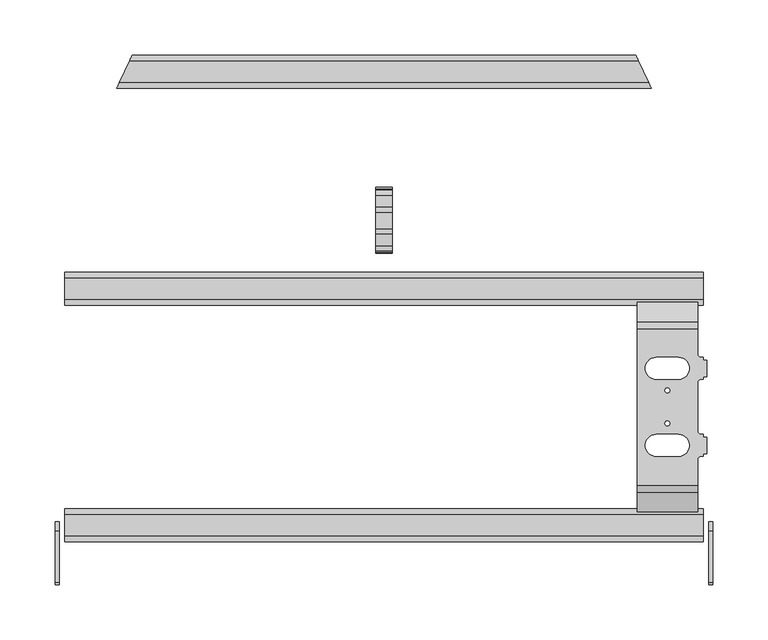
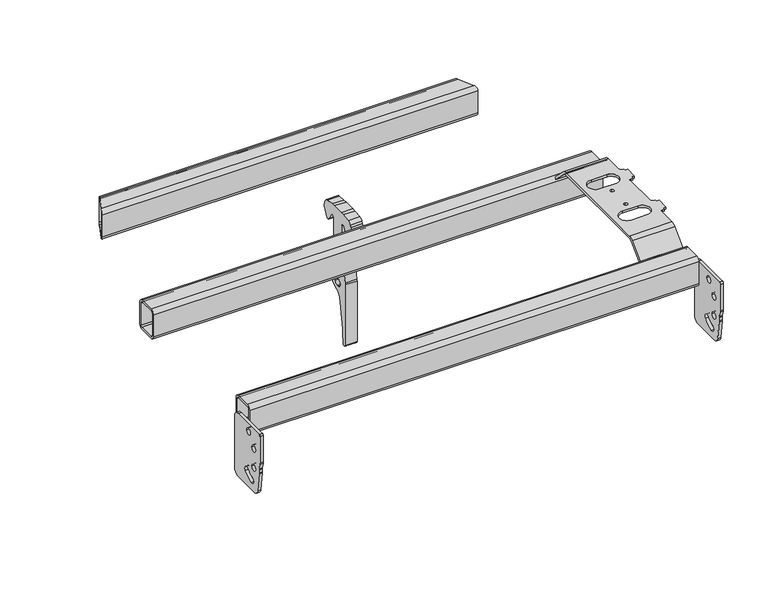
"""IFC4 building model written with IfcOpenShell, lengths in millimetres: proxy geometry, d&b CL-Series CCLi Flying Frame TOP : d&b CL-Series CCLi Flying Frame TOP."""

from ifc_helpers import new_model, si_unit, point, frame, frame_2d, origin, place, context, project, spatial, polyline, circle_curve, ellipse_curve, trimmed, segment, composite_curve, outline, extrude, source, transform, mapped, element, save
from ifc_brep_helpers import plane_surface, cylinder_surface, revolved_surface, advanced_brep


def communication_devices_adbe50ae(model_context):
    return source(origin(), model_context, "Body", "SolidModel", [
        advanced_brep(
        [(230.0, 65.4816844, 64.4743251), (230.0, 83.3713203, 82.363961), (230.0, 89.7352814, 85.0), (230.0, 231.7647186, 85.0), (230.0, 238.1286797, 82.363961), (230.0, 256.0183156, 64.4743251), (230.0, 253.858835, 62.391165), (230.0, 236.0073593, 80.2426407), (230.0, 231.7647186, 82.0), (230.0, 89.7352814, 82.0), (230.0, 85.4926407, 80.2426407), (230.0, 67.641165, 62.391165), (285.0, 231.7647186, 82.0), (285.0, 236.0073593, 80.2426407), (285.0, 253.858835, 62.391165), (285.0, 256.0183156, 64.4743251), (285.0, 238.1286797, 82.363961), (285.0, 231.7647186, 85.0), (285.0, 208.75, 85.0), (285.0, 208.75, 82.0), (285.0, 65.4816844, 64.4743251), (285.0, 67.641165, 62.391165), (285.0, 85.4926407, 80.2426407), (285.0, 89.7352814, 82.0), (285.0, 112.75, 82.0), (285.0, 112.75, 85.0), (285.0, 89.7352814, 85.0), (285.0, 83.3713203, 82.363961), (285.0, 138.75, 82.0), (285.0, 182.75, 82.0), (285.0, 182.75, 85.0), (285.0, 138.75, 85.0), (288.0, 205.75, 82.0), (290.0, 205.75, 82.0), (290.0, 203.25, 82.0), (293.5, 203.25, 82.0), (293.5, 188.25, 82.0), (290.0, 188.25, 82.0), (290.0, 185.75, 82.0), (288.0, 185.75, 82.0), (288.0, 135.75, 82.0), (290.0, 135.75, 82.0), (290.0, 133.25, 82.0), (293.5, 133.25, 82.0), (293.5, 118.25, 82.0), (290.0, 118.25, 82.0), (290.0, 115.75, 82.0), (288.0, 115.75, 82.0), (247.5, 115.75, 82.0), (267.5, 115.75, 82.0), (267.5, 135.75, 82.0), (247.5, 135.75, 82.0), (247.5, 185.75, 82.0), (267.5, 185.75, 82.0), (267.5, 205.75, 82.0), (247.5, 205.75, 82.0), (257.5, 147.9437713, 82.0), (257.5, 143.5437713, 82.0), (257.5, 177.9562287, 82.0), (257.5, 173.5562287, 82.0), (288.0, 115.75, 85.0), (290.0, 115.75, 85.0), (290.0, 118.25, 85.0), (293.5, 118.25, 85.0), (293.5, 133.25, 85.0), (290.0, 133.25, 85.0), (290.0, 135.75, 85.0), (288.0, 135.75, 85.0), (288.0, 185.75, 85.0), (290.0, 185.75, 85.0), (290.0, 188.25, 85.0), (293.5, 188.25, 85.0), (293.5, 203.25, 85.0), (290.0, 203.25, 85.0), (290.0, 205.75, 85.0), (288.0, 205.75, 85.0), (267.5, 115.75, 85.0), (247.5, 115.75, 85.0), (247.5, 135.75, 85.0), (267.5, 135.75, 85.0), (267.5, 185.75, 85.0), (247.5, 185.75, 85.0), (247.5, 205.75, 85.0), (267.5, 205.75, 85.0), (257.5, 143.5437713, 85.0), (257.5, 147.9437713, 85.0), (257.5, 173.5562287, 85.0), (257.5, 177.9562287, 85.0)],
        [
            (0, 1),
            (1, 2, circle_curve(frame((230.0, 89.7352814, 76.0), z_axis=(-1.0, 0.0, 0.0), x_axis=(0.0, 1.0, 0.0)), 9.0)),
            (2, 3),
            (3, 4, circle_curve(frame((230.0, 231.7647186, 76.0), z_axis=(-1.0, 0.0, 0.0), x_axis=(0.0, 1.0, 0.0)), 9.0)),
            (4, 5),
            (5, 6, circle_curve(frame((230.0, 258.25, 60.0), z_axis=(1.0, 0.0, 0.0), x_axis=(0.0, 1.0, 0.0)), 5.0)),
            (6, 7),
            (7, 8, circle_curve(frame((230.0, 231.7647186, 76.0), z_axis=(1.0, 0.0, 0.0), x_axis=(0.0, 1.0, 0.0)), 6.0)),
            (8, 9),
            (9, 10, circle_curve(frame((230.0, 89.7352814, 76.0), z_axis=(1.0, 0.0, 0.0), x_axis=(0.0, 1.0, 0.0)), 6.0)),
            (10, 11),
            (11, 0, circle_curve(frame((230.0, 63.25, 60.0), z_axis=(1.0, 0.0, 0.0), x_axis=(0.0, 1.0, 0.0)), 5.0)),
            (12, 13, circle_curve(frame((285.0, 231.7647186, 76.0), z_axis=(-1.0, 0.0, 0.0), x_axis=(0.0, 1.0, 0.0)), 6.0)),
            (13, 14),
            (14, 15, circle_curve(frame((285.0, 258.25, 60.0), z_axis=(-1.0, 0.0, 0.0), x_axis=(0.0, 1.0, 0.0)), 5.0)),
            (15, 16),
            (16, 17, circle_curve(frame((285.0, 231.7647186, 76.0), z_axis=(1.0, 0.0, 0.0), x_axis=(0.0, 1.0, 0.0)), 9.0)),
            (17, 18),
            (18, 19),
            (19, 12),
            (20, 21, circle_curve(frame((285.0, 63.25, 60.0), z_axis=(-1.0, 0.0, 0.0), x_axis=(0.0, 1.0, 0.0)), 5.0)),
            (21, 22),
            (22, 23, circle_curve(frame((285.0, 89.7352814, 76.0), z_axis=(-1.0, 0.0, 0.0), x_axis=(0.0, 1.0, 0.0)), 6.0)),
            (23, 24),
            (24, 25),
            (25, 26),
            (26, 27, circle_curve(frame((285.0, 89.7352814, 76.0), z_axis=(1.0, 0.0, 0.0), x_axis=(0.0, 1.0, 0.0)), 9.0)),
            (27, 20),
            (28, 29),
            (29, 30),
            (30, 31),
            (31, 28),
            (11, 21),
            (20, 0),
            (10, 22),
            (9, 23),
            (8, 12),
            (19, 32, circle_curve(frame((288.0, 208.75, 82.0), z_axis=(0.0, 0.0, 1.0), x_axis=(0.0, 1.0, 0.0)), 3.0)),
            (32, 33),
            (33, 34),
            (34, 35),
            (35, 36),
            (36, 37),
            (37, 38),
            (38, 39),
            (39, 29, circle_curve(frame((288.0, 182.75, 82.0), z_axis=(0.0, 0.0, 1.0), x_axis=(0.0, 1.0, 0.0)), 3.0)),
            (28, 40, circle_curve(frame((288.0, 138.75, 82.0), z_axis=(0.0, 0.0, 1.0), x_axis=(0.0, 1.0, 0.0)), 3.0)),
            (40, 41),
            (41, 42),
            (42, 43),
            (43, 44),
            (44, 45),
            (45, 46),
            (46, 47),
            (47, 24, circle_curve(frame((288.0, 112.75, 82.0), z_axis=(0.0, 0.0, 1.0), x_axis=(0.0, 1.0, 0.0)), 3.0)),
            (48, 49),
            (49, 50, circle_curve(frame((267.5, 125.75, 82.0), z_axis=(0.0, 0.0, 1.0), x_axis=(0.0, 1.0, 0.0)), 10.0)),
            (50, 51),
            (51, 48, circle_curve(frame((247.5, 125.75, 82.0), z_axis=(0.0, 0.0, 1.0), x_axis=(0.0, 1.0, 0.0)), 10.0)),
            (52, 53),
            (53, 54, circle_curve(frame((267.5, 195.75, 82.0), z_axis=(0.0, 0.0, 1.0), x_axis=(0.0, 1.0, 0.0)), 10.0)),
            (54, 55),
            (55, 52, circle_curve(frame((247.5, 195.75, 82.0), z_axis=(0.0, 0.0, 1.0), x_axis=(0.0, 1.0, 0.0)), 10.0)),
            (56, 57, circle_curve(frame((257.5, 145.7437713, 82.0), z_axis=(0.0, 0.0, 1.0), x_axis=(0.0, 1.0, 0.0)), 2.2)),
            (57, 56, circle_curve(frame((257.5, 145.7437713, 82.0), z_axis=(0.0, 0.0, 1.0), x_axis=(0.0, 1.0, 0.0)), 2.2)),
            (58, 59, circle_curve(frame((257.5, 175.7562287, 82.0), z_axis=(0.0, 0.0, 1.0), x_axis=(0.0, 1.0, 0.0)), 2.2)),
            (59, 58, circle_curve(frame((257.5, 175.7562287, 82.0), z_axis=(0.0, 0.0, 1.0), x_axis=(0.0, 1.0, 0.0)), 2.2)),
            (7, 13),
            (6, 14),
            (5, 15),
            (4, 16),
            (3, 17),
            (2, 26),
            (25, 60, circle_curve(frame((288.0, 112.75, 85.0), z_axis=(0.0, 0.0, -1.0), x_axis=(0.0, 1.0, 0.0)), 3.0)),
            (60, 61),
            (61, 62),
            (62, 63),
            (63, 64),
            (64, 65),
            (65, 66),
            (66, 67),
            (67, 31, circle_curve(frame((288.0, 138.75, 85.0), z_axis=(0.0, 0.0, -1.0), x_axis=(0.0, 1.0, 0.0)), 3.0)),
            (30, 68, circle_curve(frame((288.0, 182.75, 85.0), z_axis=(0.0, 0.0, -1.0), x_axis=(0.0, 1.0, 0.0)), 3.0)),
            (68, 69),
            (69, 70),
            (70, 71),
            (71, 72),
            (72, 73),
            (73, 74),
            (74, 75),
            (75, 18, circle_curve(frame((288.0, 208.75, 85.0), z_axis=(0.0, 0.0, -1.0), x_axis=(0.0, 1.0, 0.0)), 3.0)),
            (76, 77),
            (77, 78, circle_curve(frame((247.5, 125.75, 85.0), z_axis=(0.0, 0.0, -1.0), x_axis=(0.0, 1.0, 0.0)), 10.0)),
            (78, 79),
            (79, 76, circle_curve(frame((267.5, 125.75, 85.0), z_axis=(0.0, 0.0, -1.0), x_axis=(0.0, 1.0, 0.0)), 10.0)),
            (80, 81),
            (81, 82, circle_curve(frame((247.5, 195.75, 85.0), z_axis=(0.0, 0.0, -1.0), x_axis=(0.0, 1.0, 0.0)), 10.0)),
            (82, 83),
            (83, 80, circle_curve(frame((267.5, 195.75, 85.0), z_axis=(0.0, 0.0, -1.0), x_axis=(0.0, 1.0, 0.0)), 10.0)),
            (84, 85, circle_curve(frame((257.5, 145.7437713, 85.0), z_axis=(0.0, 0.0, -1.0), x_axis=(0.0, 1.0, 0.0)), 2.2)),
            (85, 84, circle_curve(frame((257.5, 145.7437713, 85.0), z_axis=(0.0, 0.0, -1.0), x_axis=(0.0, 1.0, 0.0)), 2.2)),
            (86, 87, circle_curve(frame((257.5, 175.7562287, 85.0), z_axis=(0.0, 0.0, -1.0), x_axis=(0.0, 1.0, 0.0)), 2.2)),
            (87, 86, circle_curve(frame((257.5, 175.7562287, 85.0), z_axis=(0.0, 0.0, -1.0), x_axis=(0.0, 1.0, 0.0)), 2.2)),
            (1, 27),
            (48, 77),
            (76, 49),
            (51, 78),
            (50, 79),
            (52, 81),
            (80, 53),
            (55, 82),
            (54, 83),
            (56, 85),
            (84, 57),
            (58, 87),
            (86, 59),
            (67, 40),
            (66, 41),
            (65, 42),
            (64, 43),
            (63, 44),
            (62, 45),
            (61, 46),
            (60, 47),
            (75, 32),
            (74, 33),
            (73, 34),
            (72, 35),
            (71, 36),
            (70, 37),
            (69, 38),
            (68, 39),
        ],
        [
            plane_surface(frame((230.0, 83.3713203, 82.363961), z_axis=(-1.0, 0.0, 0.0), x_axis=(0.0, 0.7071067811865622, 0.7071067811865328))),
            plane_surface(frame((285.0, 83.3713203, 82.363961), z_axis=(1.0, 0.0, 0.0), x_axis=(0.0, -0.7071067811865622, -0.7071067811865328))),
            revolved_surface(polyline([(285.0, 68.25, 60.0), (230.0, 68.25, 60.0)]), (285.0, 63.25, 60.0), (1.0, 0.0, 0.0)),
            plane_surface(frame((230.0, 85.4926407, 80.2426407), z_axis=(0.0, 0.7071067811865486, -0.7071067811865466), x_axis=(1.0, 0.0, 0.0))),
            revolved_surface(polyline([(285.0, 95.7352814, 76.0), (230.0, 95.7352814, 76.0)]), (285.0, 89.7352814, 76.0), (1.0, 0.0, 0.0)),
            plane_surface(frame((230.0, 231.7647186, 82.0), z_axis=(0.0, 0.0, -1.0), x_axis=(1.0, 0.0, 0.0))),
            revolved_surface(polyline([(285.0, 237.7647186, 76.0), (230.0, 237.7647186, 76.0)]), (285.0, 231.7647186, 76.0), (1.0, 0.0, 0.0)),
            plane_surface(frame((230.0, 253.858835, 62.391165), z_axis=(0.0, -0.7071067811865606, -0.7071067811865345), x_axis=(1.0, 0.0, 0.0))),
            revolved_surface(polyline([(285.0, 263.25, 60.0), (230.0, 263.25, 60.0)]), (285.0, 258.25, 60.0), (1.0, 0.0, 0.0)),
            plane_surface(frame((230.0, 238.1286797, 82.363961), z_axis=(0.0, 0.7071067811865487, 0.7071067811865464), x_axis=(1.0, 0.0, 0.0))),
            cylinder_surface(frame((285.0, 231.7647186, 76.0), z_axis=(-1.0, 0.0, 0.0), x_axis=(0.0, 1.0, 0.0)), 9.0),
            plane_surface(frame((230.0, 89.7352814, 85.0), z_axis=(0.0, 0.0, 1.0), x_axis=(1.0, 0.0, 0.0))),
            cylinder_surface(frame((285.0, 89.7352814, 76.0), z_axis=(-1.0, 0.0, 0.0), x_axis=(0.0, 1.0, 0.0)), 9.0),
            plane_surface(frame((230.0, 65.4816844, 64.4743251), z_axis=(0.0, -0.7071067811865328, 0.7071067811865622), x_axis=(1.0, 0.0, 0.0))),
            plane_surface(frame((247.5, 115.75, 95.0), z_axis=(0.0, 1.0, 0.0), x_axis=(0.0, 0.0, -1.0))),
            revolved_surface(polyline([(247.5, 135.75, 85.0), (247.5, 135.75, 82.0)]), (247.5, 125.75, 75.0), (0.0, 0.0, 1.0)),
            plane_surface(frame((267.5, 135.75, 95.0), z_axis=(0.0, -1.0, 0.0), x_axis=(0.0, 0.0, -1.0))),
            revolved_surface(polyline([(267.5, 135.75, 85.0), (267.5, 135.75, 82.0)]), (267.5, 125.75, 75.0), (0.0, 0.0, 1.0)),
            plane_surface(frame((247.5, 185.75, 95.0), z_axis=(0.0, 1.0, 0.0), x_axis=(0.0, 0.0, -1.0))),
            revolved_surface(polyline([(247.5, 205.75, 85.0), (247.5, 205.75, 82.0)]), (247.5, 195.75, 85.0), (0.0, 0.0, 1.0)),
            plane_surface(frame((267.5, 205.75, 95.0), z_axis=(0.0, -1.0, 0.0), x_axis=(0.0, 0.0, -1.0))),
            revolved_surface(polyline([(267.5, 205.75, 85.0), (267.5, 205.75, 82.0)]), (267.5, 195.75, 85.0), (0.0, 0.0, 1.0)),
            revolved_surface(polyline([(257.5, 147.94377129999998, 85.0), (257.5, 147.94377129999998, 82.0)]), (257.5, 145.7437713, 85.0), (0.0, 0.0, 1.0)),
            revolved_surface(polyline([(257.5, 177.9562287, 85.0), (257.5, 177.9562287, 82.0)]), (257.5, 175.7562287, 85.0), (0.0, 0.0, 1.0)),
            revolved_surface(polyline([(288.0, 141.75, 82.0), (288.0, 141.75, 85.0)]), (288.0, 138.75, 82.0), (0.0, 0.0, -1.0)),
            plane_surface(frame((290.0, 135.75, 85.0), z_axis=(0.0, 1.0, 0.0), x_axis=(0.0, 0.0, -1.0))),
            plane_surface(frame((290.0, 133.25, 85.0), z_axis=(1.0, 0.0, 0.0), x_axis=(0.0, 0.0, -1.0))),
            plane_surface(frame((293.5, 133.25, 85.0), z_axis=(0.0, 1.0, 0.0), x_axis=(0.0, 0.0, -1.0))),
            plane_surface(frame((293.5, 118.25, 85.0), z_axis=(1.0, 0.0, 0.0), x_axis=(0.0, 0.0, -1.0))),
            plane_surface(frame((290.0, 118.25, 85.0), z_axis=(0.0, -1.0, 0.0), x_axis=(0.0, 0.0, -1.0))),
            plane_surface(frame((290.0, 115.75, 85.0), z_axis=(1.0, 0.0, 0.0), x_axis=(0.0, 0.0, -1.0))),
            plane_surface(frame((288.0, 115.75, 85.0), z_axis=(0.0, -1.0, 0.0), x_axis=(0.0, 0.0, -1.0))),
            revolved_surface(polyline([(288.0, 115.75, 82.0), (288.0, 115.75, 85.0)]), (288.0, 112.75, 82.0), (0.0, 0.0, -1.0)),
            revolved_surface(polyline([(288.0, 211.75, 82.0), (288.0, 211.75, 85.0)]), (288.0, 208.75, 85.0), (0.0, 0.0, -1.0)),
            plane_surface(frame((290.0, 205.75, 85.0), z_axis=(0.0, 1.0, 0.0), x_axis=(0.0, 0.0, -1.0))),
            plane_surface(frame((290.0, 203.25, 85.0), z_axis=(1.0, 0.0, 0.0), x_axis=(0.0, 0.0, -1.0))),
            plane_surface(frame((293.5, 203.25, 85.0), z_axis=(0.0, 1.0, 0.0), x_axis=(0.0, 0.0, -1.0))),
            plane_surface(frame((293.5, 188.25, 85.0), z_axis=(1.0, 0.0, 0.0), x_axis=(0.0, 0.0, -1.0))),
            plane_surface(frame((290.0, 188.25, 85.0), z_axis=(0.0, -1.0, 0.0), x_axis=(0.0, 0.0, -1.0))),
            plane_surface(frame((290.0, 185.75, 85.0), z_axis=(1.0, 0.0, 0.0), x_axis=(0.0, 0.0, -1.0))),
            plane_surface(frame((288.0, 185.75, 85.0), z_axis=(0.0, -1.0, 0.0), x_axis=(0.0, 0.0, -1.0))),
            revolved_surface(polyline([(288.0, 185.75, 82.0), (288.0, 185.75, 85.0)]), (288.0, 182.75, 85.0), (0.0, 0.0, -1.0)),
        ],
        [
            (0, [[1, 2, 3, 4, 5, 6, 7, 8, 9, 10, 11, 12]]),
            (1, [[13, 14, 15, 16, 17, 18, 19, 20]]),
            (1, [[21, 22, 23, 24, 25, 26, 27, 28]]),
            (1, [[29, 30, 31, 32]]),
            (2, [[-12, 33, -21, 34]]),
            (3, [[-11, 35, -22, -33]]),
            (4, [[-10, 36, -23, -35]]),
            (5, [[-9, 37, -20, 38, 39, 40, 41, 42, 43, 44, 45, 46, -29, 47, 48, 49, 50, 51, 52, 53, 54, 55, -24, -36], [56, 57, 58, 59], [60, 61, 62, 63], [64, 65], [66, 67]]),
            (6, [[-8, 68, -13, -37]]),
            (7, [[-7, 69, -14, -68]]),
            (8, [[-6, 70, -15, -69]]),
            (9, [[-5, 71, -16, -70]]),
            (10, [[-4, 72, -17, -71]]),
            (11, [[-3, 73, -26, 74, 75, 76, 77, 78, 79, 80, 81, 82, -31, 83, 84, 85, 86, 87, 88, 89, 90, 91, -18, -72], [92, 93, 94, 95], [96, 97, 98, 99], [100, 101], [102, 103]]),
            (12, [[-2, 104, -27, -73]]),
            (13, [[-1, -34, -28, -104]]),
            (14, [[105, -92, 106, -56]]),
            (15, [[-105, -59, 107, -93]]),
            (16, [[-107, -58, 108, -94]]),
            (17, [[-108, -57, -106, -95]]),
            (18, [[109, -96, 110, -60]]),
            (19, [[-109, -63, 111, -97]]),
            (20, [[-111, -62, 112, -98]]),
            (21, [[-112, -61, -110, -99]]),
            (22, [[113, -100, 114, -64]]),
            (22, [[-113, -65, -114, -101]]),
            (23, [[115, -102, 116, -66]]),
            (23, [[-115, -67, -116, -103]]),
            (24, [[-82, 117, -47, -32]]),
            (25, [[-81, 118, -48, -117]]),
            (26, [[-80, 119, -49, -118]]),
            (27, [[-79, 120, -50, -119]]),
            (28, [[-78, 121, -51, -120]]),
            (29, [[-77, 122, -52, -121]]),
            (30, [[-76, 123, -53, -122]]),
            (31, [[-75, 124, -54, -123]]),
            (32, [[-74, -25, -55, -124]]),
            (33, [[-91, 125, -38, -19]]),
            (34, [[-90, 126, -39, -125]]),
            (35, [[-89, 127, -40, -126]]),
            (36, [[-88, 128, -41, -127]]),
            (37, [[-87, 129, -42, -128]]),
            (38, [[-86, 130, -43, -129]]),
            (39, [[-85, 131, -44, -130]]),
            (40, [[-84, 132, -45, -131]]),
            (41, [[-83, -30, -46, -132]]),
        ],
    ),
        extrude(outline(composite_curve([segment(trimmed(circle_curve(frame_2d((333.25, -16.901449)), 10.0), [point((343.0558068, -14.9402877))], [point((343.25, -16.901449))], False, "CARTESIAN"), True, "CONTINUOUS"), segment(polyline([(343.25, -16.901449), (343.25, -40.4112539)]), True, "CONTINUOUS"), segment(trimmed(circle_curve(frame_2d((333.25, -40.4112539)), 10.0), [point((343.25, -40.4112539))], [point((336.8336795, -49.7470582))], False, "CARTESIAN"), True, "CONTINUOUS"), segment(polyline([(336.8336795, -49.7470582), (332.5319439, -51.3983397)]), True, "CONTINUOUS"), segment(trimmed(circle_curve(frame_2d((336.1156234, -60.734144)), 10.0), [point((332.5319439, -51.3983397))], [point((326.2675459, -58.9976622))], True, "CARTESIAN"), True, "CONTINUOUS"), segment(polyline([(326.2675459, -58.9976622), (319.364657, -98.1458904)]), True, "CONTINUOUS"), segment(trimmed(circle_curve(frame_2d((358.7569671, -105.0918175)), 40.0), [point((319.364657, -98.1458904))], [point((318.781334, -103.6958377))], True, "CARTESIAN"), True, "CONTINUOUS"), segment(polyline([(318.781334, -103.6958377), (318.3174041, -116.9810529)]), True, "CONTINUOUS"), segment(trimmed(circle_curve(frame_2d((316.3186225, -116.9112539)), 2.0), [point((318.3174041, -116.9810529))], [point((316.3186225, -118.9112539))], False, "CARTESIAN"), True, "CONTINUOUS"), segment(polyline([(316.3186225, -118.9112539), (315.25, -118.9112539)]), True, "CONTINUOUS"), segment(trimmed(circle_curve(frame_2d((315.25, -116.9112539)), 2.0), [point((315.25, -118.9112539))], [point((313.25, -116.9112539))], False, "CARTESIAN"), True, "CONTINUOUS"), segment(polyline([(313.25, -116.9112539), (313.25, -33.979987)]), True, "CONTINUOUS"), segment(trimmed(circle_curve(frame_2d((323.25, -33.979987)), 10.0), [point((313.25, -33.979987))], [point((313.4758583, -31.8666591))], False, "CARTESIAN"), True, "CONTINUOUS"), segment(polyline([(313.4758583, -31.8666591), (321.0241417, 3.0441512)]), True, "CONTINUOUS"), segment(trimmed(circle_curve(frame_2d((311.25, 5.1574792)), 10.0), [point((321.0241417, 3.0441512))], [point((321.25, 5.1574792))], True, "CARTESIAN"), True, "CONTINUOUS"), segment(polyline([(321.25, 5.1574792), (321.25, 14.0), (321.25, 41.3387461)]), True, "CONTINUOUS"), segment(trimmed(circle_curve(frame_2d((318.1, 41.3387461)), 3.15), [point((321.25, 41.3387461))], [point((315.3187151, 42.8175815))], True, "CARTESIAN"), True, "CONTINUOUS"), segment(polyline([(315.3187151, 42.8175815), (310.6415816, 34.0211729)]), True, "CONTINUOUS"), segment(trimmed(circle_curve(frame_2d((308.2576231, 35.2887461)), 2.7), [point((310.6415816, 34.0211729))], [point((305.9193546, 33.9387461))], False, "CARTESIAN"), True, "CONTINUOUS"), segment(polyline([(305.9193546, 33.9387461), (301.7237206, 41.2057973)]), True, "CONTINUOUS"), segment(trimmed(circle_curve(frame_2d((311.25, 46.7057973)), 11.0), [point((301.7237206, 41.2057973))], [point((301.2806143, 51.3545982))], False, "CARTESIAN"), True, "CONTINUOUS"), segment(polyline([(301.2806143, 51.3545982), (302.4929747, 53.9545133)]), True, "CONTINUOUS"), segment(trimmed(circle_curve(frame_2d((307.9308214, 51.4188037)), 6.0), [point((302.4929747, 53.9545133))], [point((307.1996053, 57.3740807))], False, "CARTESIAN"), True, "CONTINUOUS"), segment(polyline([(307.1996053, 57.3740807), (317.9217311, 58.6905922)]), True, "CONTINUOUS"), segment(trimmed(circle_curve(frame_2d((322.7965048, 18.9887461)), 40.0), [point((317.9217311, 58.6905922))], [point((322.7965048, 58.9887461))], False, "CARTESIAN"), True, "CONTINUOUS"), segment(polyline([(322.7965048, 58.9887461), (337.7034952, 58.9887461)]), True, "CONTINUOUS"), segment(trimmed(circle_curve(frame_2d((337.7034952, 18.9887461)), 40.0), [point((337.7034952, 58.9887461))], [point((342.5782689, 58.6905922))], False, "CARTESIAN"), True, "CONTINUOUS"), segment(polyline([(342.5782689, 58.6905922), (353.3003947, 57.3740807)]), True, "CONTINUOUS"), segment(trimmed(circle_curve(frame_2d((352.5691786, 51.4188037)), 6.0), [point((353.3003947, 57.3740807))], [point((358.0070253, 53.9545133))], False, "CARTESIAN"), True, "CONTINUOUS"), segment(polyline([(358.0070253, 53.9545133), (359.2193857, 51.3545982)]), True, "CONTINUOUS"), segment(trimmed(circle_curve(frame_2d((349.25, 46.7057973)), 11.0), [point((359.2193857, 51.3545982))], [point((360.25, 46.7057973))], False, "CARTESIAN"), True, "CONTINUOUS"), segment(trimmed(circle_curve(frame_2d((349.25, 46.7057973)), 11.0), [point((360.25, 46.7057973))], [point((358.7762794, 41.2057973))], False, "CARTESIAN"), True, "CONTINUOUS"), segment(polyline([(358.7762794, 41.2057973), (354.5806454, 33.9387461)]), True, "CONTINUOUS"), segment(trimmed(circle_curve(frame_2d((352.2423769, 35.2887461)), 2.7), [point((354.5806454, 33.9387461))], [point((349.8584184, 34.0211729))], False, "CARTESIAN"), True, "CONTINUOUS"), segment(polyline([(349.8584184, 34.0211729), (345.1812849, 42.8175815)]), True, "CONTINUOUS"), segment(trimmed(circle_curve(frame_2d((342.4, 41.3387461)), 3.15), [point((345.1812849, 42.8175815))], [point((339.25, 41.3387461))], True, "CARTESIAN"), True, "CONTINUOUS"), segment(polyline([(339.25, 41.3387461), (339.25, 14.0), (339.25, 5.0789412)]), True, "CONTINUOUS"), segment(trimmed(circle_curve(frame_2d((349.25, 5.0789412)), 10.0), [point((339.25, 5.0789412))], [point((339.4441932, 3.1177799))], True, "CARTESIAN"), True, "CONTINUOUS"), segment(polyline([(339.4441932, 3.1177799), (343.0558068, -14.9402877)]), True, "CONTINUOUS")], self_intersect=False), holes=[composite_curve([segment(trimmed(circle_curve(frame_2d((329.5, -40.9112539)), 4.65), [point((329.5, -36.2612539))], [point((329.5, -45.5612539))], True, "CARTESIAN"), True, "CONTINUOUS"), segment(polyline([(329.5, -45.5612539), (331.0, -45.5612539)]), True, "CONTINUOUS"), segment(trimmed(circle_curve(frame_2d((331.0, -40.9112539)), 4.65), [point((331.0, -45.5612539))], [point((335.65, -40.9112539))], True, "CARTESIAN"), True, "CONTINUOUS"), segment(trimmed(circle_curve(frame_2d((331.0, -40.9112539)), 4.65), [point((335.65, -40.9112539))], [point((331.0, -36.2612539))], True, "CARTESIAN"), True, "CONTINUOUS"), segment(polyline([(331.0, -36.2612539), (329.5, -36.2612539)]), True, "CONTINUOUS")], self_intersect=False), composite_curve([segment(trimmed(circle_curve(frame_2d((331.0, -23.9112539)), 5.15), [point((331.0, -29.0612539))], [point((336.15, -23.9112539))], True, "CARTESIAN"), True, "CONTINUOUS"), segment(trimmed(circle_curve(frame_2d((331.0, -23.9112539)), 5.15), [point((336.15, -23.9112539))], [point((331.0, -18.7612539))], True, "CARTESIAN"), True, "CONTINUOUS"), segment(polyline([(331.0, -18.7612539), (329.5, -18.7612539)]), True, "CONTINUOUS"), segment(trimmed(circle_curve(frame_2d((329.5, -23.9112539)), 5.15), [point((329.5, -18.7612539))], [point((329.5, -29.0612539))], True, "CARTESIAN"), True, "CONTINUOUS"), segment(polyline([(329.5, -29.0612539), (331.0, -29.0612539)]), True, "CONTINUOUS")], self_intersect=False)]), frame((-7.5, 0.0, 0.0), z_axis=(1.0, 0.0, 0.0), x_axis=(0.0, 1.0, 0.0)), (0.0, 0.0, 1.0), 15.0),
        extrude(outline(composite_curve([segment(polyline([(56.25, 45.0), (56.25, -25.0)]), True, "CONTINUOUS"), segment(trimmed(circle_curve(frame_2d((48.25, -25.0)), 8.0), [point((56.25, -25.0))], [point((48.25, -33.0))], False, "CARTESIAN"), True, "CONTINUOUS"), segment(polyline([(48.25, -33.0), (12.3981638, -33.0)]), True, "CONTINUOUS"), segment(trimmed(circle_curve(frame_2d((12.3981638, -25.0)), 8.0), [point((12.3981638, -33.0))], [point((4.4621242, -26.0095918))], False, "CARTESIAN"), True, "CONTINUOUS"), segment(polyline([(4.4621242, -26.0095918), (1.3459406, -1.5143876)]), True, "CONTINUOUS"), segment(trimmed(circle_curve(frame_2d((13.25, 0.0)), 12.0), [point((1.3459406, -1.5143876))], [point((1.25, 0.0))], False, "CARTESIAN"), True, "CONTINUOUS"), segment(polyline([(1.25, 0.0), (1.25, 4.1218222)]), True, "CONTINUOUS"), segment(trimmed(circle_curve(frame_2d((-6.75, 4.1218222)), 8.0), [point((1.25, 4.1218222))], [point((1.0594965, 5.8572658))], True, "CARTESIAN"), True, "CONTINUOUS"), segment(polyline([(1.0594965, 5.8572658), (-0.5594965, 13.1427342)]), True, "CONTINUOUS"), segment(trimmed(circle_curve(frame_2d((7.25, 14.8781778)), 8.0), [point((-0.5594965, 13.1427342))], [point((-0.75, 14.8781778))], False, "CARTESIAN"), True, "CONTINUOUS"), segment(polyline([(-0.75, 14.8781778), (-0.75, 51.0)]), True, "CONTINUOUS"), segment(trimmed(circle_curve(frame_2d((1.25, 51.0)), 2.0), [point((-0.75, 51.0))], [point((1.25, 53.0))], False, "CARTESIAN"), True, "CONTINUOUS"), segment(polyline([(1.25, 53.0), (48.25, 53.0)]), True, "CONTINUOUS"), segment(trimmed(circle_curve(frame_2d((48.25, 45.0)), 8.0), [point((48.25, 53.0))], [point((56.25, 45.0))], False, "CARTESIAN"), True, "CONTINUOUS")], self_intersect=False), holes=[composite_curve([segment(trimmed(circle_curve(frame_2d((13.25, 0.0)), 4.15), [point((9.1, 0.0))], [point((17.4, 0.0))], True, "CARTESIAN"), True, "CONTINUOUS"), segment(trimmed(circle_curve(frame_2d((13.25, 0.0)), 4.15), [point((17.4, 0.0))], [point((9.1, 0.0))], True, "CARTESIAN"), True, "CONTINUOUS")], self_intersect=False), composite_curve([segment(trimmed(circle_curve(frame_2d((13.25, 0.0)), 15.85), [point((25.5677635, -9.9747282))], [point((16.8154742, -15.4437655))], False, "CARTESIAN"), True, "CONTINUOUS"), segment(trimmed(circle_curve(frame_2d((17.7490211, -19.4874013)), 4.15), [point((16.8154742, -15.4437655))], [point((13.5990211, -19.4874013))], True, "CARTESIAN"), True, "CONTINUOUS"), segment(trimmed(circle_curve(frame_2d((17.7490211, -19.4874013)), 4.15), [point((13.5990211, -19.4874013))], [point((18.682568, -23.5310371))], True, "CARTESIAN"), True, "CONTINUOUS"), segment(trimmed(circle_curve(frame_2d((13.25, 0.0)), 24.15), [point((18.682568, -23.5310371))], [point((32.018075, -15.1980874))], True, "CARTESIAN"), True, "CONTINUOUS"), segment(trimmed(circle_curve(frame_2d((28.7929192, -12.5864078)), 4.15), [point((32.018075, -15.1980874))], [point((25.5677635, -9.9747282))], True, "CARTESIAN"), True, "CONTINUOUS")], self_intersect=False), composite_curve([segment(trimmed(circle_curve(frame_2d((13.25, 26.0)), 4.15), [point((9.1, 26.0))], [point((17.4, 26.0))], True, "CARTESIAN"), True, "CONTINUOUS"), segment(trimmed(circle_curve(frame_2d((13.25, 26.0)), 4.15), [point((17.4, 26.0))], [point((9.1, 26.0))], True, "CARTESIAN"), True, "CONTINUOUS")], self_intersect=False), composite_curve([segment(trimmed(circle_curve(frame_2d((24.7215287, 42.3830409)), 4.15), [point((20.5715287, 42.3830409))], [point((28.8715287, 42.3830409))], True, "CARTESIAN"), True, "CONTINUOUS"), segment(trimmed(circle_curve(frame_2d((24.7215287, 42.3830409)), 4.15), [point((28.8715287, 42.3830409))], [point((20.5715287, 42.3830409))], True, "CARTESIAN"), True, "CONTINUOUS")], self_intersect=False)]), frame((295.0, 0.0, 0.0), z_axis=(1.0, 0.0, 0.0), x_axis=(0.0, 1.0, 0.0)), (0.0, 0.0, 1.0), 4.0),
        extrude(outline(composite_curve([segment(polyline([(56.25, 45.0), (56.25, -25.0)]), True, "CONTINUOUS"), segment(trimmed(circle_curve(frame_2d((48.25, -25.0)), 8.0), [point((56.25, -25.0))], [point((48.25, -33.0))], False, "CARTESIAN"), True, "CONTINUOUS"), segment(polyline([(48.25, -33.0), (12.3981638, -33.0)]), True, "CONTINUOUS"), segment(trimmed(circle_curve(frame_2d((12.3981638, -25.0)), 8.0), [point((12.3981638, -33.0))], [point((4.4621242, -26.0095918))], False, "CARTESIAN"), True, "CONTINUOUS"), segment(polyline([(4.4621242, -26.0095918), (1.3459406, -1.5143876)]), True, "CONTINUOUS"), segment(trimmed(circle_curve(frame_2d((13.25, 0.0)), 12.0), [point((1.3459406, -1.5143876))], [point((1.25, 0.0))], False, "CARTESIAN"), True, "CONTINUOUS"), segment(polyline([(1.25, 0.0), (1.25, 4.1218222)]), True, "CONTINUOUS"), segment(trimmed(circle_curve(frame_2d((-6.75, 4.1218222)), 8.0), [point((1.25, 4.1218222))], [point((1.0594965, 5.8572658))], True, "CARTESIAN"), True, "CONTINUOUS"), segment(polyline([(1.0594965, 5.8572658), (-0.5594965, 13.1427342)]), True, "CONTINUOUS"), segment(trimmed(circle_curve(frame_2d((7.25, 14.8781778)), 8.0), [point((-0.5594965, 13.1427342))], [point((-0.75, 14.8781778))], False, "CARTESIAN"), True, "CONTINUOUS"), segment(polyline([(-0.75, 14.8781778), (-0.75, 51.0)]), True, "CONTINUOUS"), segment(trimmed(circle_curve(frame_2d((1.25, 51.0)), 2.0), [point((-0.75, 51.0))], [point((1.25, 53.0))], False, "CARTESIAN"), True, "CONTINUOUS"), segment(polyline([(1.25, 53.0), (48.25, 53.0)]), True, "CONTINUOUS"), segment(trimmed(circle_curve(frame_2d((48.25, 45.0)), 8.0), [point((48.25, 53.0))], [point((56.25, 45.0))], False, "CARTESIAN"), True, "CONTINUOUS")], self_intersect=False), holes=[composite_curve([segment(trimmed(circle_curve(frame_2d((13.25, 0.0)), 4.15), [point((9.1, 0.0))], [point((17.4, 0.0))], True, "CARTESIAN"), True, "CONTINUOUS"), segment(trimmed(circle_curve(frame_2d((13.25, 0.0)), 4.15), [point((17.4, 0.0))], [point((9.1, 0.0))], True, "CARTESIAN"), True, "CONTINUOUS")], self_intersect=False), composite_curve([segment(trimmed(circle_curve(frame_2d((13.25, 0.0)), 15.85), [point((25.5677635, -9.9747282))], [point((16.8154742, -15.4437655))], False, "CARTESIAN"), True, "CONTINUOUS"), segment(trimmed(circle_curve(frame_2d((17.7490211, -19.4874013)), 4.15), [point((16.8154742, -15.4437655))], [point((13.5990211, -19.4874013))], True, "CARTESIAN"), True, "CONTINUOUS"), segment(trimmed(circle_curve(frame_2d((17.7490211, -19.4874013)), 4.15), [point((13.5990211, -19.4874013))], [point((18.682568, -23.5310371))], True, "CARTESIAN"), True, "CONTINUOUS"), segment(trimmed(circle_curve(frame_2d((13.25, 0.0)), 24.15), [point((18.682568, -23.5310371))], [point((32.018075, -15.1980874))], True, "CARTESIAN"), True, "CONTINUOUS"), segment(trimmed(circle_curve(frame_2d((28.7929192, -12.5864078)), 4.15), [point((32.018075, -15.1980874))], [point((25.5677635, -9.9747282))], True, "CARTESIAN"), True, "CONTINUOUS")], self_intersect=False), composite_curve([segment(trimmed(circle_curve(frame_2d((13.25, 26.0)), 4.15), [point((9.1, 26.0))], [point((17.4, 26.0))], True, "CARTESIAN"), True, "CONTINUOUS"), segment(trimmed(circle_curve(frame_2d((13.25, 26.0)), 4.15), [point((17.4, 26.0))], [point((9.1, 26.0))], True, "CARTESIAN"), True, "CONTINUOUS")], self_intersect=False), composite_curve([segment(trimmed(circle_curve(frame_2d((24.7215287, 42.3830409)), 4.15), [point((20.5715287, 42.3830409))], [point((28.8715287, 42.3830409))], True, "CARTESIAN"), True, "CONTINUOUS"), segment(trimmed(circle_curve(frame_2d((24.7215287, 42.3830409)), 4.15), [point((28.8715287, 42.3830409))], [point((20.5715287, 42.3830409))], True, "CARTESIAN"), True, "CONTINUOUS")], self_intersect=False)]), frame((-299.0, 0.0, 0.0), z_axis=(1.0, 0.0, 0.0), x_axis=(0.0, 1.0, 0.0)), (0.0, 0.0, 1.0), 4.0),
        advanced_brep(
        [(240.4271454, 455.5593298, 65.0), (-240.4271454, 455.5593298, 65.0), (-242.7586837, 450.5593298, 60.0), (242.7586837, 450.5593298, 60.0), (-242.7586837, 450.5593298, 30.0), (242.7586837, 450.5593298, 30.0), (-240.4271454, 455.5593298, 25.0), (240.4271454, 455.5593298, 25.0), (-231.1009922, 475.5593298, 25.0), (231.1009922, 475.5593298, 25.0), (-228.7694539, 480.5593298, 30.0), (228.7694539, 480.5593298, 30.0), (-228.7694539, 480.5593298, 60.0), (228.7694539, 480.5593298, 60.0), (-231.1009922, 475.5593298, 65.0), (231.1009922, 475.5593298, 65.0), (231.1009922, 475.5593298, 62.0), (-231.1009922, 475.5593298, 62.0), (-230.1683769, 477.5593298, 60.0), (230.1683769, 477.5593298, 60.0), (-230.1683769, 477.5593298, 30.0), (230.1683769, 477.5593298, 30.0), (-231.1009922, 475.5593298, 28.0), (231.1009922, 475.5593298, 28.0), (-240.4271454, 455.5593298, 28.0), (240.4271454, 455.5593298, 28.0), (-241.3597607, 453.5593298, 30.0), (241.3597607, 453.5593298, 30.0), (-241.3597607, 453.5593298, 60.0), (241.3597607, 453.5593298, 60.0), (-240.4271454, 455.5593298, 62.0), (240.4271454, 455.5593298, 62.0)],
        [
            (0, 1),
            (1, 2, ellipse_curve(frame((-240.4271454, 455.5593298, 60.0), z_axis=(0.9063077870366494, -0.4226182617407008, 0.0), x_axis=(0.42261826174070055, 0.9063077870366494, 0.0)), 5.5168896, 5.0)),
            (2, 3),
            (3, 0, ellipse_curve(frame((240.4271454, 455.5593298, 60.0), z_axis=(-0.9063077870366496, -0.42261826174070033, 0.0), x_axis=(0.4226182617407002, -0.9063077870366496, 0.0)), 5.5168896, 5.0)),
            (2, 4),
            (4, 5),
            (5, 3),
            (4, 6, ellipse_curve(frame((-240.4271454, 455.5593298, 30.0), z_axis=(0.9063077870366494, -0.4226182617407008, 0.0), x_axis=(0.42261826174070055, 0.9063077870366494, 0.0)), 5.5168896, 5.0)),
            (6, 7),
            (7, 5, ellipse_curve(frame((240.4271454, 455.5593298, 30.0), z_axis=(-0.9063077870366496, -0.42261826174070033, 0.0), x_axis=(0.4226182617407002, -0.9063077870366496, 0.0)), 5.5168896, 5.0)),
            (6, 8),
            (8, 9),
            (9, 7),
            (8, 10, ellipse_curve(frame((-231.1009922, 475.5593298, 30.0), z_axis=(0.9063077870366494, -0.4226182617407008, 0.0), x_axis=(0.42261826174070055, 0.9063077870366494, 0.0)), 5.5168896, 5.0)),
            (10, 11),
            (11, 9, ellipse_curve(frame((231.1009922, 475.5593298, 30.0), z_axis=(-0.9063077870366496, -0.42261826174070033, 0.0), x_axis=(0.4226182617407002, -0.9063077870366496, 0.0)), 5.5168896, 5.0)),
            (10, 12),
            (12, 13),
            (13, 11),
            (12, 14, ellipse_curve(frame((-231.1009922, 475.5593298, 60.0), z_axis=(0.9063077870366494, -0.4226182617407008, 0.0), x_axis=(0.42261826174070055, 0.9063077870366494, 0.0)), 5.5168896, 5.0)),
            (14, 15),
            (15, 13, ellipse_curve(frame((231.1009922, 475.5593298, 60.0), z_axis=(-0.9063077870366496, -0.42261826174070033, 0.0), x_axis=(0.4226182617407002, -0.9063077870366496, 0.0)), 5.5168896, 5.0)),
            (0, 15),
            (14, 1),
            (16, 17),
            (17, 18, ellipse_curve(frame((-231.1009922, 475.5593298, 60.0), z_axis=(-0.9063077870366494, 0.4226182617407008, 0.0), x_axis=(-0.42261826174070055, -0.9063077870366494, 0.0)), 2.2067558, 2.0)),
            (18, 19),
            (19, 16, ellipse_curve(frame((231.1009922, 475.5593298, 60.0), z_axis=(0.9063077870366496, 0.42261826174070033, 0.0), x_axis=(-0.4226182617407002, 0.9063077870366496, 0.0)), 2.2067558, 2.0)),
            (18, 20),
            (20, 21),
            (21, 19),
            (20, 22, ellipse_curve(frame((-231.1009922, 475.5593298, 30.0), z_axis=(-0.9063077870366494, 0.4226182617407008, 0.0), x_axis=(-0.42261826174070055, -0.9063077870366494, 0.0)), 2.2067558, 2.0)),
            (22, 23),
            (23, 21, ellipse_curve(frame((231.1009922, 475.5593298, 30.0), z_axis=(0.9063077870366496, 0.42261826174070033, 0.0), x_axis=(-0.4226182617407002, 0.9063077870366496, 0.0)), 2.2067558, 2.0)),
            (22, 24),
            (24, 25),
            (25, 23),
            (24, 26, ellipse_curve(frame((-240.4271454, 455.5593298, 30.0), z_axis=(-0.9063077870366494, 0.4226182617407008, 0.0), x_axis=(-0.42261826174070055, -0.9063077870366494, 0.0)), 2.2067558, 2.0)),
            (26, 27),
            (27, 25, ellipse_curve(frame((240.4271454, 455.5593298, 30.0), z_axis=(0.9063077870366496, 0.42261826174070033, 0.0), x_axis=(-0.4226182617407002, 0.9063077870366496, 0.0)), 2.2067558, 2.0)),
            (26, 28),
            (28, 29),
            (29, 27),
            (28, 30, ellipse_curve(frame((-240.4271454, 455.5593298, 60.0), z_axis=(-0.9063077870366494, 0.4226182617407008, 0.0), x_axis=(-0.42261826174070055, -0.9063077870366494, 0.0)), 2.2067558, 2.0)),
            (30, 31),
            (31, 29, ellipse_curve(frame((240.4271454, 455.5593298, 60.0), z_axis=(0.9063077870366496, 0.42261826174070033, 0.0), x_axis=(-0.4226182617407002, 0.9063077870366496, 0.0)), 2.2067558, 2.0)),
            (16, 31),
            (30, 17),
        ],
        [
            cylinder_surface(frame((-290.0, 455.5593298, 60.0), z_axis=(1.0, 0.0, 0.0), x_axis=(0.0, 1.0, 0.0)), 5.0),
            plane_surface(frame((290.0, 450.5593298, 60.0), z_axis=(0.0, -1.0, 0.0), x_axis=(-1.0, 0.0, 0.0))),
            cylinder_surface(frame((-290.0, 455.5593298, 30.0), z_axis=(1.0, 0.0, 0.0), x_axis=(0.0, 1.0, 0.0)), 5.0),
            plane_surface(frame((290.0, 455.5593298, 25.0), z_axis=(0.0, 0.0, -1.0), x_axis=(-1.0, 0.0, 0.0))),
            cylinder_surface(frame((-290.0, 475.5593298, 30.0), z_axis=(1.0, 0.0, 0.0), x_axis=(0.0, 1.0, 0.0)), 5.0),
            plane_surface(frame((290.0, 480.5593298, 30.0), z_axis=(0.0, 1.0, 0.0), x_axis=(-1.0, 0.0, 0.0))),
            cylinder_surface(frame((-290.0, 475.5593298, 60.0), z_axis=(1.0, 0.0, 0.0), x_axis=(0.0, 1.0, 0.0)), 5.0),
            plane_surface(frame((290.0, 475.5593298, 65.0), z_axis=(0.0, 0.0, 1.0), x_axis=(-1.0, 0.0, 0.0))),
            revolved_surface(polyline([(-232.03360750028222, 477.5593298, 60.0), (232.03360750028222, 477.5593298, 60.0)]), (0.0, 475.5593298, 60.0), (-1.0, 0.0, 0.0)),
            plane_surface(frame((290.0, 477.5593298, 60.0), z_axis=(0.0, -1.0, 0.0), x_axis=(-1.0, 0.0, 0.0))),
            revolved_surface(polyline([(-232.03360750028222, 477.5593298, 30.0), (232.03360750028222, 477.5593298, 30.0)]), (0.0, 475.5593298, 30.0), (-1.0, 0.0, 0.0)),
            plane_surface(frame((290.0, 475.5593298, 28.0), z_axis=(0.0, 0.0, 1.0), x_axis=(-1.0, 0.0, 0.0))),
            revolved_surface(polyline([(-241.3597607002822, 457.5593298, 30.0), (241.3597607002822, 457.5593298, 30.0)]), (0.0, 455.5593298, 30.0), (-1.0, 0.0, 0.0)),
            plane_surface(frame((290.0, 453.5593298, 30.0), z_axis=(0.0, 1.0, 0.0), x_axis=(-1.0, 0.0, 0.0))),
            revolved_surface(polyline([(-241.3597607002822, 457.5593298, 60.0), (241.3597607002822, 457.5593298, 60.0)]), (0.0, 455.5593298, 60.0), (-1.0, 0.0, 0.0)),
            plane_surface(frame((290.0, 455.5593298, 62.0), z_axis=(0.0, 0.0, -1.0), x_axis=(-1.0, 0.0, 0.0))),
            plane_surface(frame((-246.8736011, 441.7348609, 74.9561632), z_axis=(-0.9063077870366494, 0.4226182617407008, 0.0), x_axis=(0.0, 0.0, -1.0))),
            plane_surface(frame((223.5582182, 491.7348609, 74.9561632), z_axis=(0.9063077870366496, 0.42261826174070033, 0.0), x_axis=(0.0, 0.0, -1.0))),
        ],
        [
            (0, [[1, 2, 3, 4]]),
            (1, [[-3, 5, 6, 7]]),
            (2, [[-6, 8, 9, 10]]),
            (3, [[-9, 11, 12, 13]]),
            (4, [[-12, 14, 15, 16]]),
            (5, [[-15, 17, 18, 19]]),
            (6, [[-18, 20, 21, 22]]),
            (7, [[-1, 23, -21, 24]]),
            (8, [[25, 26, 27, 28]]),
            (9, [[-27, 29, 30, 31]]),
            (10, [[-30, 32, 33, 34]]),
            (11, [[-33, 35, 36, 37]]),
            (12, [[-36, 38, 39, 40]]),
            (13, [[-39, 41, 42, 43]]),
            (14, [[-42, 44, 45, 46]]),
            (15, [[-25, 47, -45, 48]]),
            (16, [[-2, -24, -20, -17, -14, -11, -8, -5], [-26, -48, -44, -41, -38, -35, -32, -29]]),
            (17, [[-4, -7, -10, -13, -16, -19, -22, -23], [-28, -31, -34, -37, -40, -43, -46, -47]]),
        ],
    ),
        extrude(outline(composite_curve([segment(polyline([(258.25, 65.0), (278.25, 65.0)]), True, "CONTINUOUS"), segment(trimmed(circle_curve(frame_2d((278.25, 60.0)), 5.0), [point((278.25, 65.0))], [point((283.25, 60.0))], False, "CARTESIAN"), True, "CONTINUOUS"), segment(polyline([(283.25, 60.0), (283.25, 30.0)]), True, "CONTINUOUS"), segment(trimmed(circle_curve(frame_2d((278.25, 30.0)), 5.0), [point((283.25, 30.0))], [point((278.25, 25.0))], False, "CARTESIAN"), True, "CONTINUOUS"), segment(polyline([(278.25, 25.0), (258.25, 25.0)]), True, "CONTINUOUS"), segment(trimmed(circle_curve(frame_2d((258.25, 30.0)), 5.0), [point((258.25, 25.0))], [point((253.25, 30.0))], False, "CARTESIAN"), True, "CONTINUOUS"), segment(polyline([(253.25, 30.0), (253.25, 60.0)]), True, "CONTINUOUS"), segment(trimmed(circle_curve(frame_2d((258.25, 60.0)), 5.0), [point((253.25, 60.0))], [point((258.25, 65.0))], False, "CARTESIAN"), True, "CONTINUOUS")], self_intersect=False), holes=[composite_curve([segment(polyline([(278.25, 62.0), (258.25, 62.0)]), True, "CONTINUOUS"), segment(trimmed(circle_curve(frame_2d((258.25, 60.0)), 2.0), [point((258.25, 62.0))], [point((256.25, 60.0))], True, "CARTESIAN"), True, "CONTINUOUS"), segment(polyline([(256.25, 60.0), (256.25, 30.0)]), True, "CONTINUOUS"), segment(trimmed(circle_curve(frame_2d((258.25, 30.0)), 2.0), [point((256.25, 30.0))], [point((258.25, 28.0))], True, "CARTESIAN"), True, "CONTINUOUS"), segment(polyline([(258.25, 28.0), (278.25, 28.0)]), True, "CONTINUOUS"), segment(trimmed(circle_curve(frame_2d((278.25, 30.0)), 2.0), [point((278.25, 28.0))], [point((280.25, 30.0))], True, "CARTESIAN"), True, "CONTINUOUS"), segment(polyline([(280.25, 30.0), (280.25, 60.0)]), True, "CONTINUOUS"), segment(trimmed(circle_curve(frame_2d((278.25, 60.0)), 2.0), [point((280.25, 60.0))], [point((278.25, 62.0))], True, "CARTESIAN"), True, "CONTINUOUS")], self_intersect=False)]), frame((-290.0, 0.0, 0.0), z_axis=(1.0, 0.0, 0.0), x_axis=(0.0, 1.0, 0.0)), (0.0, 0.0, 1.0), 580.0),
        extrude(outline(composite_curve([segment(polyline([(43.25, 65.0), (63.25, 65.0)]), True, "CONTINUOUS"), segment(trimmed(circle_curve(frame_2d((63.25, 60.0)), 5.0), [point((63.25, 65.0))], [point((68.25, 60.0))], False, "CARTESIAN"), True, "CONTINUOUS"), segment(polyline([(68.25, 60.0), (68.25, 30.0)]), True, "CONTINUOUS"), segment(trimmed(circle_curve(frame_2d((63.25, 30.0)), 5.0), [point((68.25, 30.0))], [point((63.25, 25.0))], False, "CARTESIAN"), True, "CONTINUOUS"), segment(polyline([(63.25, 25.0), (43.25, 25.0)]), True, "CONTINUOUS"), segment(trimmed(circle_curve(frame_2d((43.25, 30.0)), 5.0), [point((43.25, 25.0))], [point((38.25, 30.0))], False, "CARTESIAN"), True, "CONTINUOUS"), segment(polyline([(38.25, 30.0), (38.25, 60.0)]), True, "CONTINUOUS"), segment(trimmed(circle_curve(frame_2d((43.25, 60.0)), 5.0), [point((38.25, 60.0))], [point((43.25, 65.0))], False, "CARTESIAN"), True, "CONTINUOUS")], self_intersect=False), holes=[composite_curve([segment(polyline([(63.25, 62.0), (43.25, 62.0)]), True, "CONTINUOUS"), segment(trimmed(circle_curve(frame_2d((43.25, 60.0)), 2.0), [point((43.25, 62.0))], [point((41.25, 60.0))], True, "CARTESIAN"), True, "CONTINUOUS"), segment(polyline([(41.25, 60.0), (41.25, 30.0)]), True, "CONTINUOUS"), segment(trimmed(circle_curve(frame_2d((43.25, 30.0)), 2.0), [point((41.25, 30.0))], [point((43.25, 28.0))], True, "CARTESIAN"), True, "CONTINUOUS"), segment(polyline([(43.25, 28.0), (63.25, 28.0)]), True, "CONTINUOUS"), segment(trimmed(circle_curve(frame_2d((63.25, 30.0)), 2.0), [point((63.25, 28.0))], [point((65.25, 30.0))], True, "CARTESIAN"), True, "CONTINUOUS"), segment(polyline([(65.25, 30.0), (65.25, 60.0)]), True, "CONTINUOUS"), segment(trimmed(circle_curve(frame_2d((63.25, 60.0)), 2.0), [point((65.25, 60.0))], [point((63.25, 62.0))], True, "CARTESIAN"), True, "CONTINUOUS")], self_intersect=False)]), frame((-290.0, 0.0, 0.0), z_axis=(1.0, 0.0, 0.0), x_axis=(0.0, 1.0, 0.0)), (0.0, 0.0, 1.0), 580.0),
    ])


if __name__ == "__main__":
    model = new_model("IFC4")
    model_context = context("Model", 3, world=origin())
    ifc_project = project(units=[si_unit("LENGTHUNIT", "METRE", prefix="MILLI")], contexts=[model_context])
    site = spatial("IfcSite", under=ifc_project)
    building = spatial("IfcBuilding", under=site)
    placement = place(None, origin())
    communication_devices_shape = communication_devices_adbe50ae(model_context)
    element("IfcBuildingElementProxy", 1, Name="d&b CL-Series CCLi Flying Frame TOP : d&b CL-Series CCLi Flying Frame TOP", ObjectType="d&b CL-Series CCLi Flying Frame TOP : d&b CL-Series CCLi Flying Frame TOP", at=placement, inside=building, context=model_context, shape_type="MappedRepresentation", body=[
        mapped(communication_devices_shape, transform((0.0, 0.0, 0.0), x_axis=(1.0, 0.0, 0.0), y_axis=(0.0, 1.0, 0.0), z_axis=(0.0, 0.0, 1.0))),
    ])
    save(model, "model.ifc")
